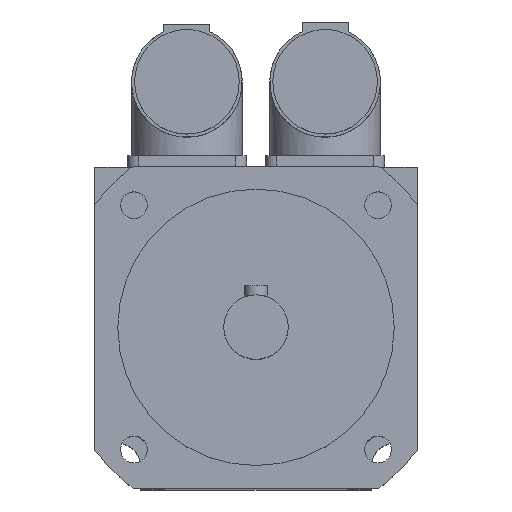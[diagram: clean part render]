
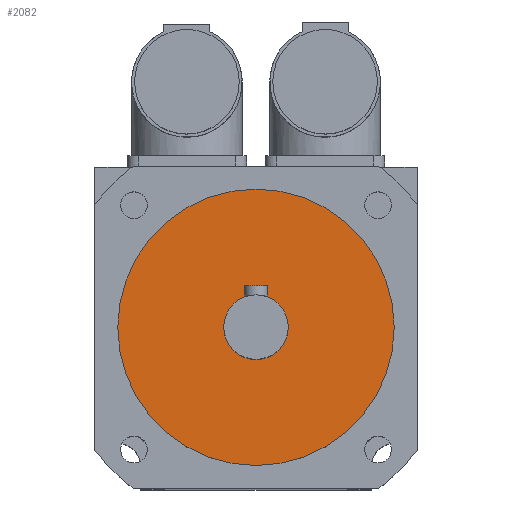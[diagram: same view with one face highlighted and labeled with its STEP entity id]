
A CAD part, top view. The second image highlights one B-rep face of the part: STEP entity #2082.
In plain terms, the highlighted planar face has unit normal (0, 0, 1).
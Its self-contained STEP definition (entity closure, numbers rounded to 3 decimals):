
#36=FACE_BOUND('',#359,.T.);
#61=CIRCLE('',#2206,7.);
#62=CIRCLE('',#2209,30.);
#234=FACE_OUTER_BOUND('',#358,.T.);
#358=EDGE_LOOP('',(#1420));
#359=EDGE_LOOP('',(#1421));
#878=VERTEX_POINT('',#3179);
#879=VERTEX_POINT('',#3183);
#1092=EDGE_CURVE('',#878,#878,#61,.T.);
#1093=EDGE_CURVE('',#879,#879,#62,.T.);
#1420=ORIENTED_EDGE('',*,*,#1093,.T.);
#1421=ORIENTED_EDGE('',*,*,#1092,.T.);
#2019=PLANE('',#2211);
#2082=ADVANCED_FACE('',(#234,#36),#2019,.T.);
#2206=AXIS2_PLACEMENT_3D('',#3180,#2468,#2469);
#2209=AXIS2_PLACEMENT_3D('',#3184,#2474,#2475);
#2211=AXIS2_PLACEMENT_3D('',#3187,#2478,#2479);
#2468=DIRECTION('center_axis',(0.,0.,-1.));
#2469=DIRECTION('ref_axis',(-1.,0.,0.));
#2474=DIRECTION('center_axis',(0.,0.,1.));
#2475=DIRECTION('ref_axis',(-1.,0.,0.));
#2478=DIRECTION('center_axis',(0.,0.,1.));
#2479=DIRECTION('ref_axis',(1.,0.,0.));
#3179=CARTESIAN_POINT('',(7.,0.,148.));
#3180=CARTESIAN_POINT('Origin',(0.,0.,148.));
#3183=CARTESIAN_POINT('',(30.,0.,148.));
#3184=CARTESIAN_POINT('Origin',(0.,0.,148.));
#3187=CARTESIAN_POINT('Origin',(0.,0.,
148.));
